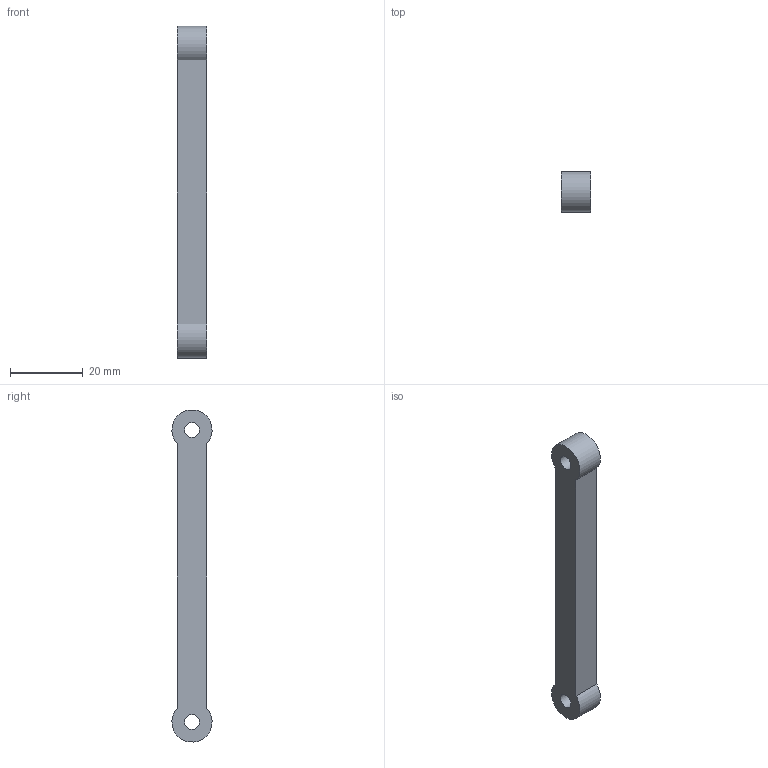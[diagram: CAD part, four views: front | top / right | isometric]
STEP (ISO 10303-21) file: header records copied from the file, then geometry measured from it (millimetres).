
FILE_DESCRIPTION(('Open CASCADE Model'),'2;1');
FILE_NAME('Open CASCADE Shape Model','2026-10-15T13:05:48',('Author'),( 'Open CASCADE'),'Open CASCADE STEP processor 7.9','Open CASCADE 7.9' ,'Unknown');
FILE_SCHEMA(('AUTOMOTIVE_DESIGN { 1 0 10303 214 1 1 1 1 }'));
Length unit declared in the file: millimetre
Products named in the file (1): Open CASCADE STEP translator 7.9 14
Bounding box: 8 x 10.98 x 90.96 mm (x, y, z)
Volume: 5793.6 mm3; surface area: 3223.3 mm2
Topology: 1 solids, 1 shells, 8 faces, 18 edges, 12 vertices
Faces by surface type: plane 4, cylinder 4
Full cylindrical faces by diameter (mm): 4.1 x2
Entity records: 485 total; most frequent: CARTESIAN_POINT 81, DIRECTION 79, LINE 38, VECTOR 38, ORIENTED_EDGE 36, PCURVE 36, DEFINITIONAL_REPRESENTATION 36, EDGE_CURVE 18
